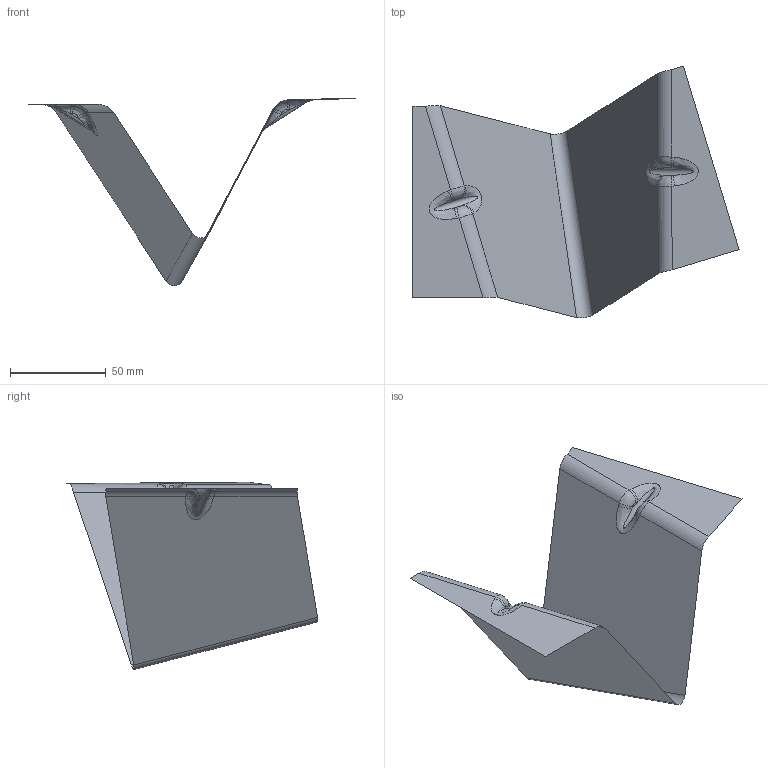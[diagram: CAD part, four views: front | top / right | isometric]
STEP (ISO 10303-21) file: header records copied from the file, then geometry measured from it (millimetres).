
FILE_DESCRIPTION(('CATIA V5 STEP Exchange'),'2;1');
FILE_NAME('C:\_Andres\UNIVERSIDAD\IQS\ASIGNATURAS\DAO\EXF\EXF-16172c\2inicio\Rabat_Riba_Ej03_v26.stp','2017-03-05T19:32:27+00:00',('none'),('none'),'CATIA Version 5-6 Release 2014 SP1 HF18','CATIA V5 STEP AP203','none');
FILE_SCHEMA(('CONFIG_CONTROL_DESIGN'));
Length unit declared in the file: millimetre
Products named in the file (1): Rabat_Riba_Ej03_v26
Bounding box: 170.19 x 131.33 x 97.68 mm (x, y, z)
Surface area: 25589.3 mm2 (no closed solid volume)
Topology: 0 solids, 1 shells, 31 faces, 78 edges, 48 vertices
Faces by surface type: cylinder 15, plane 8, bspline 8
Entity records: 2443 total; most frequent: CARTESIAN_POINT 1770, ORIENTED_EDGE 140, DIRECTION 90, EDGE_CURVE 78, VERTEX_POINT 48, VECTOR 40, LINE 40, ADVANCED_FACE 31
